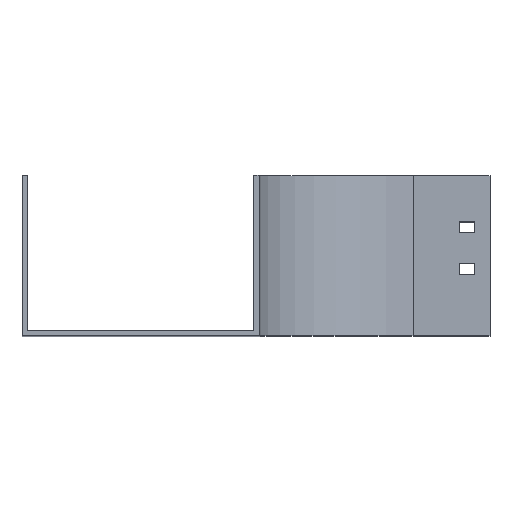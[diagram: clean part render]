
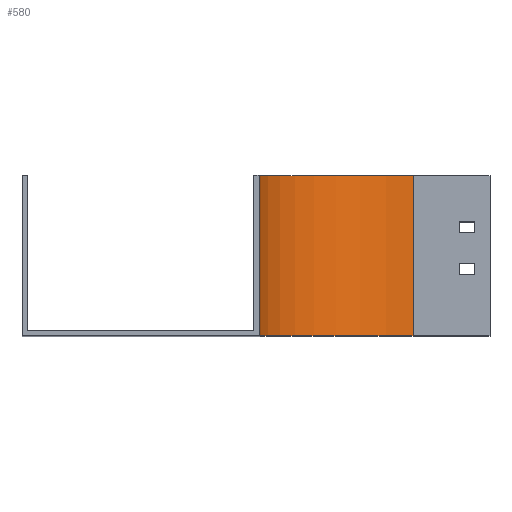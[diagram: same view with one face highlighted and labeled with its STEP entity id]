
A CAD part, top view. The second image highlights one B-rep face of the part: STEP entity #580.
In plain terms, the highlighted cylindrical face has radius 100 mm (diameter 200 mm), a partial arc.
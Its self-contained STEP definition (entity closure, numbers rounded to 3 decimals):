
#79 = VERTEX_POINT ( 'NONE', #423 ) ;
#127 = DIRECTION ( 'NONE',  ( 0., 0., -1. ) ) ;
#271 = EDGE_CURVE ( 'NONE', #1881, #79, #2750, .T. ) ;
#283 = CIRCLE ( 'NONE', #726, 100. ) ;
#385 = DIRECTION ( 'NONE',  ( 0., -1., 0. ) ) ;
#395 = ORIENTED_EDGE ( 'NONE', *, *, #271, .T. ) ;
#411 = DIRECTION ( 'NONE',  ( 0., 0., -1. ) ) ;
#423 = CARTESIAN_POINT ( 'NONE',  ( -100., 0., 0. ) ) ;
#529 = LINE ( 'NONE', #1387, #2652 ) ;
#580 = ADVANCED_FACE ( 'NONE', ( #600 ), #2363, .F. ) ;
#600 = FACE_OUTER_BOUND ( 'NONE', #842, .T. ) ;
#726 = AXIS2_PLACEMENT_3D ( 'NONE', #1425, #2031, #127 ) ;
#813 = VECTOR ( 'NONE', #385, 1000. ) ;
#816 = DIRECTION ( 'NONE',  ( 0., -1., 0. ) ) ;
#842 = EDGE_LOOP ( 'NONE', ( #2550, #2179, #2284, #395 ) ) ;
#850 = VERTEX_POINT ( 'NONE', #1242 ) ;
#1210 = CARTESIAN_POINT ( 'NONE',  ( -100., 104., 0. ) ) ;
#1242 = CARTESIAN_POINT ( 'NONE',  ( 0., 0., -100. ) ) ;
#1250 = CARTESIAN_POINT ( 'NONE',  ( 0., 104., 0. ) ) ;
#1259 = DIRECTION ( 'NONE',  ( 0., 0., -1. ) ) ;
#1387 = CARTESIAN_POINT ( 'NONE',  ( 0., 104., -100. ) ) ;
#1425 = CARTESIAN_POINT ( 'NONE',  ( 0., 104., 0. ) ) ;
#1459 = DIRECTION ( 'NONE',  ( 0., -1., 0. ) ) ;
#1881 = VERTEX_POINT ( 'NONE', #1210 ) ;
#2031 = DIRECTION ( 'NONE',  ( 0., -1., 0. ) ) ;
#2118 = CARTESIAN_POINT ( 'NONE',  ( -100., 104., 0. ) ) ;
#2179 = ORIENTED_EDGE ( 'NONE', *, *, #2234, .F. ) ;
#2234 = EDGE_CURVE ( 'NONE', #2375, #850, #529, .T. ) ;
#2284 = ORIENTED_EDGE ( 'NONE', *, *, #2317, .F. ) ;
#2304 = AXIS2_PLACEMENT_3D ( 'NONE', #2719, #816, #1259 ) ;
#2317 = EDGE_CURVE ( 'NONE', #1881, #2375, #283, .T. ) ;
#2331 = CARTESIAN_POINT ( 'NONE',  ( 0., 104., -100. ) ) ;
#2363 = CYLINDRICAL_SURFACE ( 'NONE', #2612, 100. ) ;
#2375 = VERTEX_POINT ( 'NONE', #2331 ) ;
#2414 = EDGE_CURVE ( 'NONE', #79, #850, #2575, .T. ) ;
#2550 = ORIENTED_EDGE ( 'NONE', *, *, #2414, .T. ) ;
#2575 = CIRCLE ( 'NONE', #2304, 100. ) ;
#2612 = AXIS2_PLACEMENT_3D ( 'NONE', #1250, #1459, #411 ) ;
#2634 = DIRECTION ( 'NONE',  ( 0., -1., 0. ) ) ;
#2652 = VECTOR ( 'NONE', #2634, 1000. ) ;
#2719 = CARTESIAN_POINT ( 'NONE',  ( 0., 0., 0. ) ) ;
#2750 = LINE ( 'NONE', #2118, #813 ) ;
